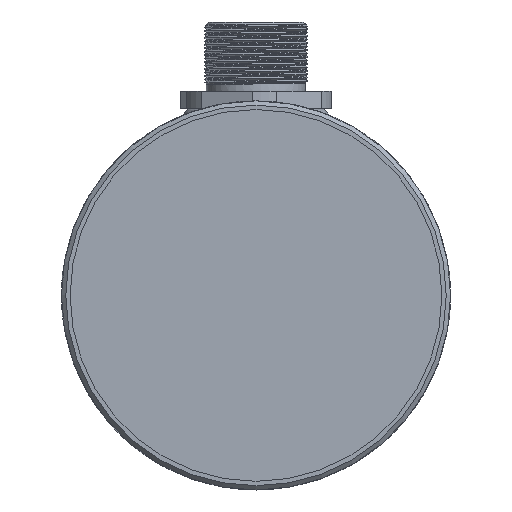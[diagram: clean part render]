
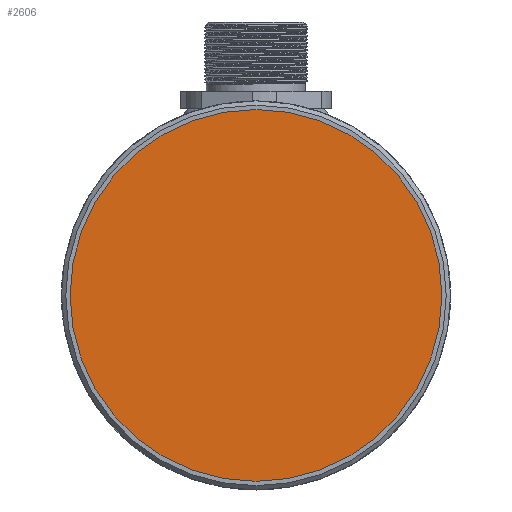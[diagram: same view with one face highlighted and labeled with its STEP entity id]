
A CAD part, left-side view. The second image highlights one B-rep face of the part: STEP entity #2606.
In plain terms, the highlighted planar face has unit normal (-1, 0, 0).
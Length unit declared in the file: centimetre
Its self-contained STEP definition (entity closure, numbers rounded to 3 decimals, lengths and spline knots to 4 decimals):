
#794=CIRCLE('',#2773,2.15);
#886=VERTEX_POINT('',#3546);
#1305=EDGE_CURVE('',#886,#886,#794,.T.);
#1633=ORIENTED_EDGE('',*,*,#1305,.T.);
#2218=EDGE_LOOP('',(#1633));
#2415=FACE_BOUND('',#2218,.T.);
#2606=ADVANCED_FACE('',(#2415),#14695,.T.);
#2773=AXIS2_PLACEMENT_3D('',#3545,#2988,#2989);
#2775=AXIS2_PLACEMENT_3D('',#3549,#2992,$);
#2988=DIRECTION('',(-1.,0.,0.));
#2989=DIRECTION('',(0.,0.,2.15));
#2992=DIRECTION('',(-1.,0.,0.));
#3545=CARTESIAN_POINT('',(0.1,0.,0.));
#3546=CARTESIAN_POINT('',(0.1,0.,2.15));
#3549=CARTESIAN_POINT('',(0.1,0.,0.));
#14695=PLANE('',#2775);
